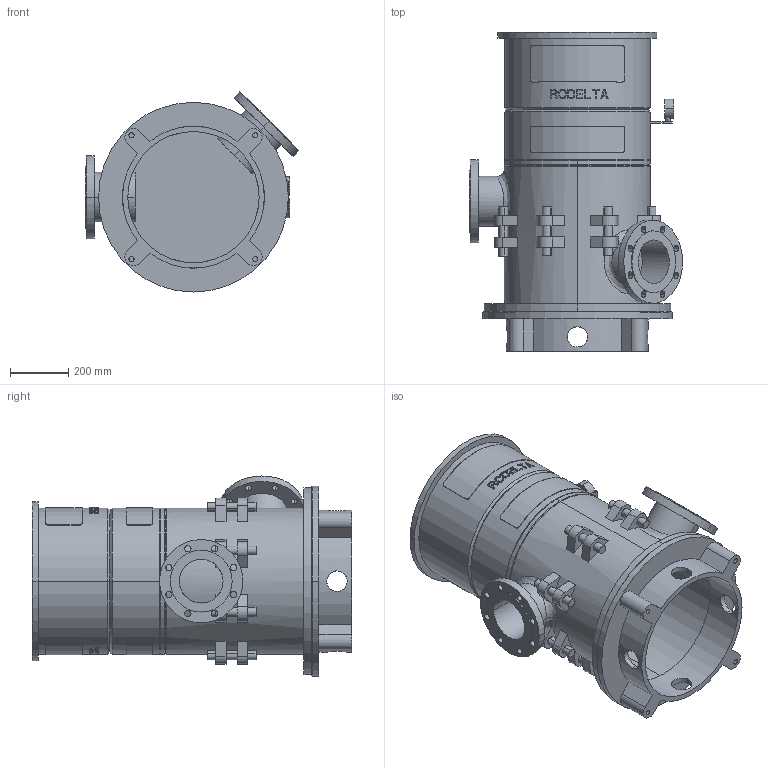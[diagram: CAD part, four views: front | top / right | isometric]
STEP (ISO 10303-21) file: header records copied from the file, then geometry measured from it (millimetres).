
FILE_DESCRIPTION((''),'2;1');
FILE_NAME('LS6_1TR_0GR_ABOVE_30KW','2023-08-11T',('Lyritlocal'),(''),'PRO/ENGINEER BY PARAMETRIC TECHNOLOGY CORPORATION, 2016360','PRO/ENGINEER BY PARAMETRIC TECHNOLOGY CORPORATION, 2016360','');
FILE_SCHEMA(('CONFIG_CONTROL_DESIGN'));
Length unit declared in the file: millimetre
Products named in the file (1): LS6_1TR_0GR_ABOVE_30KW
Bounding box: 730.27 x 1093 x 685.27 mm (x, y, z)
Volume: 40978857 mm3; surface area: 5286699.5 mm2
Topology: 3 solids, 7 shells, 684 faces, 1767 edges, 1174 vertices
Faces by surface type: plane 422, cylinder 242, cone 12, bspline 8
Entity records: 22721 total; most frequent: CARTESIAN_POINT 6109, ORIENTED_EDGE 3518, DIRECTION 3273, EDGE_CURVE 1767, AXIS2_PLACEMENT_3D 1237, VERTEX_POINT 1174, EDGE_LOOP 829, VECTOR 799
